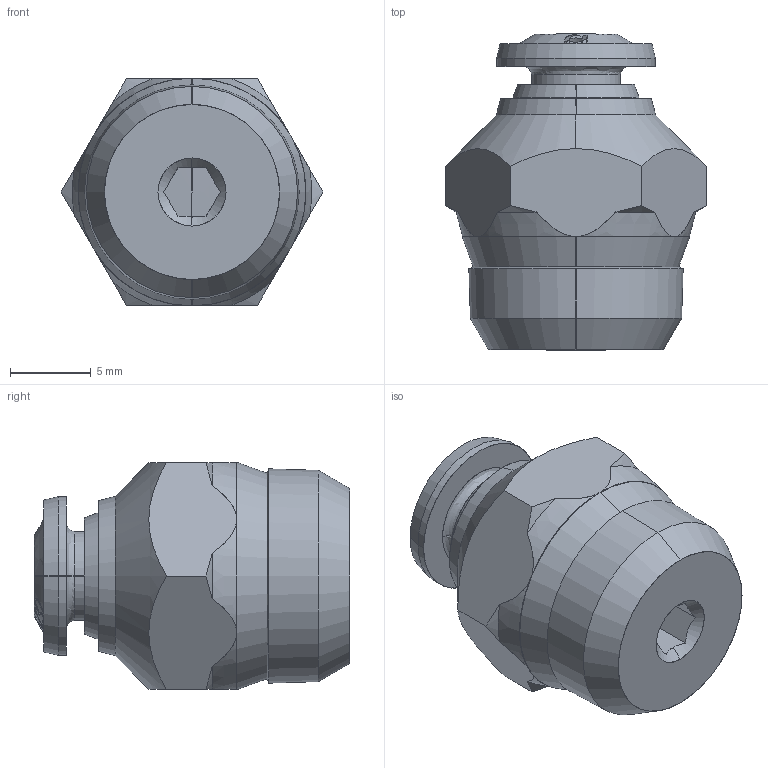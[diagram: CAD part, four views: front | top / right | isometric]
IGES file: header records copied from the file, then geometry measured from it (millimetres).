
Start section: SolidWorks IGES file using analytic representation for surfaces
Global section: file name: K:\Disegni Esecutivi\Serie 55000\ASSIEMI_55000\55000\ASSIEMI_PIENI_55000\5500000013.IGS; native system: SolidWorks 2007; preprocessor: SolidWorks 2007; author: cad02; date: 071117.091448; units: millimetre
Bounding box: 16.17 x 19.5 x 14.06 mm (x, y, z)
Surface area: 1314.7 mm2 (no closed solid volume)
Topology: 0 solids, 0 shells, 215 faces, 2364 edges, 2362 vertices
Faces by surface type: bspline 143, revolution 72
